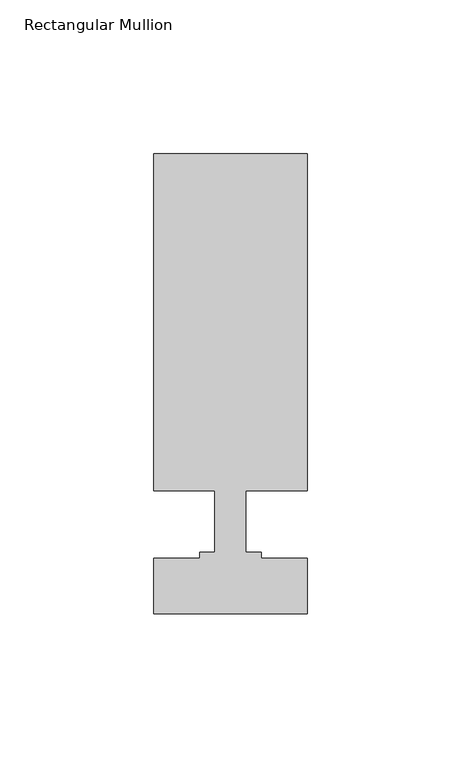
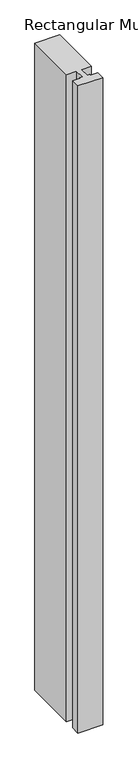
"""IFC4 building model written with IfcOpenShell, lengths in millimetres: member geometry, Rectangular Mullion : TR_CW_¸ALU_internal."""

from ifc_helpers import new_model, si_unit, frame, origin, place, context, project, spatial, polyline, outline, extrude, source, transform, mapped, element, save


def rectangular_mullion_283f794a(model_context):
    return source(origin(), model_context, "Body", "SweptSolid", [
        extrude(outline(polyline([(25.0, 0.0), (-25.0, 0.0), (-25.0, 18.0204111), (-10.0, 18.0204111), (-10.0, 20.0), (-5.0, 20.0), (-5.0, 40.0), (-25.0, 40.0), (-25.0, 149.8096073), (25.0, 149.8096073), (25.0, 40.0), (5.0, 40.0), (5.0, 20.0), (10.0, 20.0), (10.0, 18.0204111), (25.0, 18.0204111), (25.0, 0.0)])), frame((0.0, 0.0, -1374.0), z_axis=(0.0, 0.0, 1.0), x_axis=(1.0, 0.0, 0.0)), (0.0, 0.0, 1.0), 1374.0),
    ])


if __name__ == "__main__":
    model = new_model("IFC4")
    model_context = context("Model", 3, world=origin())
    ifc_project = project(units=[si_unit("LENGTHUNIT", "METRE", prefix="MILLI")], contexts=[model_context])
    site = spatial("IfcSite", under=ifc_project)
    building = spatial("IfcBuilding", under=site)
    placement = place(None, origin())
    rectangular_mullion_shape = rectangular_mullion_283f794a(model_context)
    element("IfcMember", 1, ObjectType="Rectangular Mullion : TR_CW_¸ALU_internal", at=placement, inside=building, context=model_context, shape_type="MappedRepresentation", body=[
        mapped(rectangular_mullion_shape, transform((0.0, 0.0, 0.0), x_axis=(1.0, 0.0, 0.0), y_axis=(0.0, 1.0, 0.0), z_axis=(0.0, 0.0, 1.0))),
    ])
    save(model, "model.ifc")
